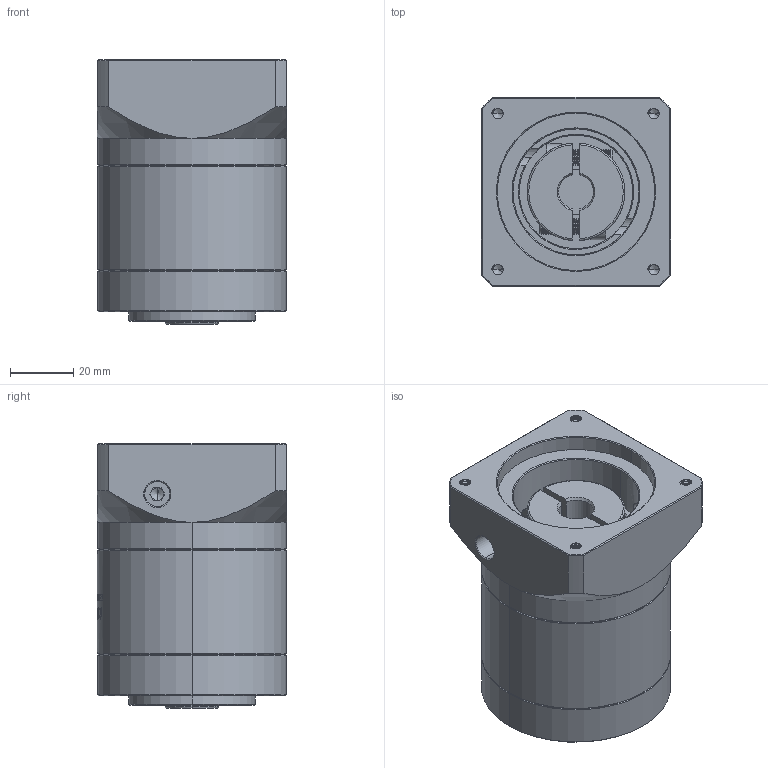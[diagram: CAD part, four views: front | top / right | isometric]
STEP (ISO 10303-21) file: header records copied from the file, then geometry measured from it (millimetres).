
FILE_DESCRIPTION (( 'STEP AP214' ), '1' );
FILE_NAME ('ZE60-K10-L1-11-50-70-M4.STEP', '2022-04-17T15:16:45', ( '' ), ( 'Microsoft' ), 'SwSTEP 2.0', 'SolidWorks 2016', '' );
FILE_SCHEMA (( 'AUTOMOTIVE_DESIGN' ));
Length unit declared in the file: millimetre
Products named in the file (1): ZE60-K10-L1-11-50-70-M4
Bounding box: 60 x 60 x 84 mm (x, y, z)
Volume: 206866.7 mm3; surface area: 41512.3 mm2
Topology: 6 solids, 6 shells, 1641 faces, 4469 edges, 2899 vertices
Faces by surface type: plane 725, cylinder 380, bspline 304, cone 214, torus 18
Entity records: 93716 total; most frequent: CARTESIAN_POINT 38315, ORIENTED_EDGE 8898, DIRECTION 6379, EDGE_CURVE 4449, VERTEX_POINT 2899, VECTOR 2239, LINE 2239, AXIS2_PLACEMENT_3D 2070
